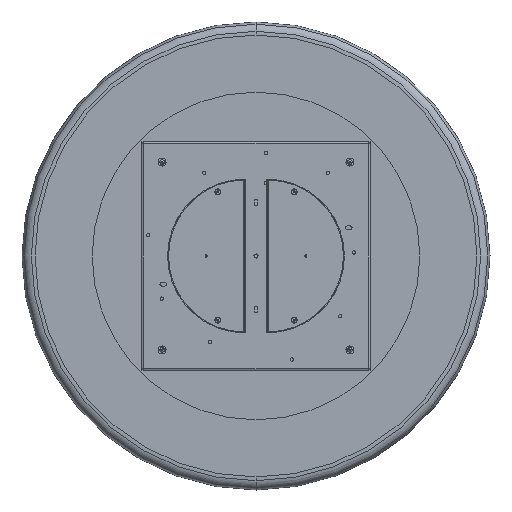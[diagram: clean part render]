
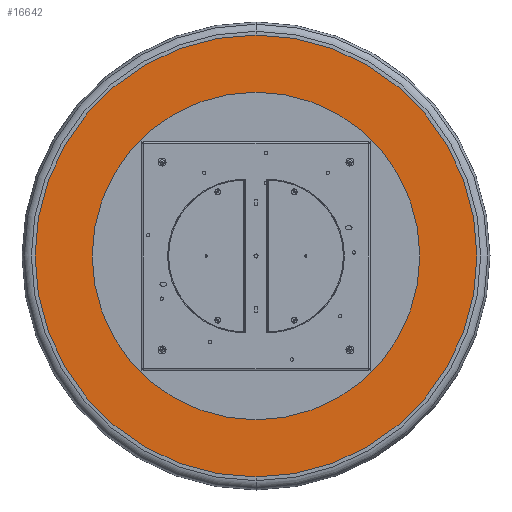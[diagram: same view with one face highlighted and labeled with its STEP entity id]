
A CAD part, front view. The second image highlights one B-rep face of the part: STEP entity #16642.
In plain terms, the highlighted planar face has unit normal (0, -1, 0).
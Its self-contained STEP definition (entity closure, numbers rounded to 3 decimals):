
#217 = VERTEX_POINT ( 'NONE', #13156 ) ;
#296 = CIRCLE ( 'NONE', #16429, 661. ) ;
#844 = EDGE_CURVE ( 'NONE', #16477, #1028, #7299, .T. ) ;
#875 = CARTESIAN_POINT ( 'NONE',  ( 0., -56., 490. ) ) ;
#1028 = VERTEX_POINT ( 'NONE', #12506 ) ;
#1747 = AXIS2_PLACEMENT_3D ( 'NONE', #10841, #8126, #13460 ) ;
#2378 = AXIS2_PLACEMENT_3D ( 'NONE', #7389, #11495, #16792 ) ;
#2393 = DIRECTION ( 'NONE',  ( 0., 0., -1. ) ) ;
#2696 = EDGE_LOOP ( 'NONE', ( #3483, #15100 ) ) ;
#2739 = PLANE ( 'NONE',  #3159 ) ;
#2976 = EDGE_CURVE ( 'NONE', #13089, #217, #9888, .T. ) ;
#3033 = CARTESIAN_POINT ( 'NONE',  ( 0., -56., -661. ) ) ;
#3058 = DIRECTION ( 'NONE',  ( 0., 1., 0. ) ) ;
#3159 = AXIS2_PLACEMENT_3D ( 'NONE', #12946, #13210, #2393 ) ;
#3483 = ORIENTED_EDGE ( 'NONE', *, *, #7970, .F. ) ;
#3716 = ORIENTED_EDGE ( 'NONE', *, *, #2976, .F. ) ;
#4459 = EDGE_LOOP ( 'NONE', ( #5198, #3716 ) ) ;
#5198 = ORIENTED_EDGE ( 'NONE', *, *, #15106, .F. ) ;
#5457 = DIRECTION ( 'NONE',  ( 0., -1., 0. ) ) ;
#7299 = CIRCLE ( 'NONE', #1747, 661. ) ;
#7389 = CARTESIAN_POINT ( 'NONE',  ( 0., -56., 0. ) ) ;
#7970 = EDGE_CURVE ( 'NONE', #1028, #16477, #296, .T. ) ;
#8126 = DIRECTION ( 'NONE',  ( 0., 1., 0. ) ) ;
#9228 = AXIS2_PLACEMENT_3D ( 'NONE', #9396, #5457, #10530 ) ;
#9396 = CARTESIAN_POINT ( 'NONE',  ( 0., -56., 0. ) ) ;
#9696 = DIRECTION ( 'NONE',  ( 0., 0., 1. ) ) ;
#9888 = CIRCLE ( 'NONE', #2378, 490. ) ;
#10530 = DIRECTION ( 'NONE',  ( 0., 0., -1. ) ) ;
#10841 = CARTESIAN_POINT ( 'NONE',  ( 0., -56., 0. ) ) ;
#11495 = DIRECTION ( 'NONE',  ( 0., -1., 0. ) ) ;
#11734 = FACE_BOUND ( 'NONE', #4459, .T. ) ;
#12506 = CARTESIAN_POINT ( 'NONE',  ( 0., -56., 661. ) ) ;
#12946 = CARTESIAN_POINT ( 'NONE',  ( 0., -56., 661. ) ) ;
#13089 = VERTEX_POINT ( 'NONE', #875 ) ;
#13156 = CARTESIAN_POINT ( 'NONE',  ( 0., -56., -490. ) ) ;
#13210 = DIRECTION ( 'NONE',  ( 0., -1., 0. ) ) ;
#13460 = DIRECTION ( 'NONE',  ( 0., 0., 1. ) ) ;
#13532 = CARTESIAN_POINT ( 'NONE',  ( 0., -56., 0. ) ) ;
#14681 = FACE_OUTER_BOUND ( 'NONE', #2696, .T. ) ;
#14776 = CIRCLE ( 'NONE', #9228, 490. ) ;
#15100 = ORIENTED_EDGE ( 'NONE', *, *, #844, .F. ) ;
#15106 = EDGE_CURVE ( 'NONE', #217, #13089, #14776, .T. ) ;
#16429 = AXIS2_PLACEMENT_3D ( 'NONE', #13532, #3058, #9696 ) ;
#16477 = VERTEX_POINT ( 'NONE', #3033 ) ;
#16642 = ADVANCED_FACE ( 'NONE', ( #11734, #14681 ), #2739, .T. ) ;
#16792 = DIRECTION ( 'NONE',  ( 0., 0., -1. ) ) ;
